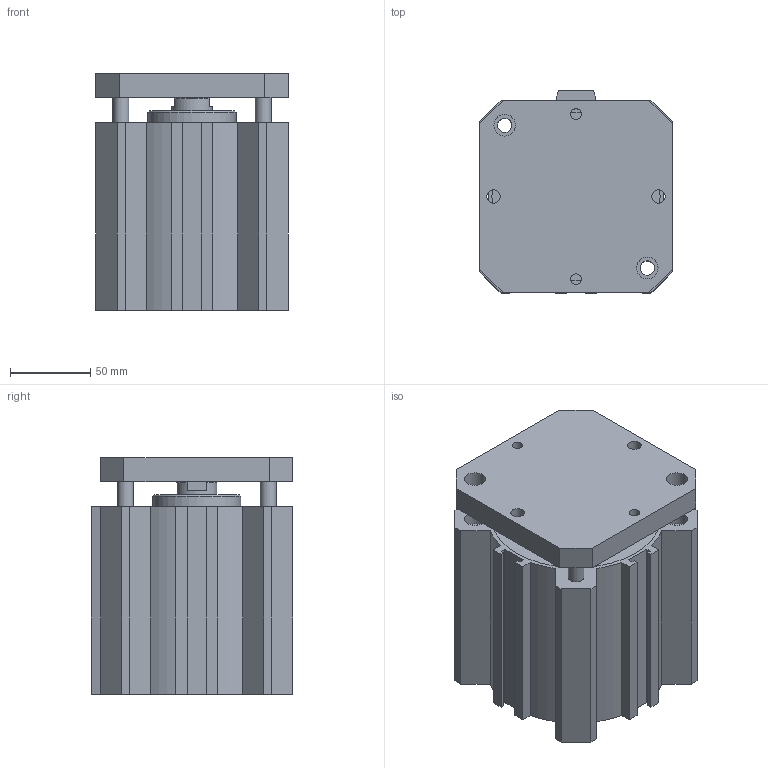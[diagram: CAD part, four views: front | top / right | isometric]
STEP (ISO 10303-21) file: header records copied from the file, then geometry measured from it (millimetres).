
FILE_DESCRIPTION(/* description */ (''),/* implementation_level */ '2;1');
FILE_NAME(/* name */ 'I:\Area Tecnica\Disegni\VARIE-3D\Componenti\1500\Ø100\15##_100_####_#\1501_100_0070_AR.stp',/* time_stamp */ '2016-08-24T15:10:24+02:00',/* author */ ('Maniean1'),/* organization */ (''),/* preprocessor_version */ 'ST-DEVELOPER v15.2',/* originating_system */ 'Autodesk Inventor 2014',/* authorisation */ '');
FILE_SCHEMA (('AUTOMOTIVE_DESIGN { 1 0 10303 214 3 1 1 }'));
Length unit declared in the file: millimetre
Products named in the file (3): C_1501_100_0070_AR; S_1501_100_0070_AR; 1501_100_0070_AR
Bounding box: 120 x 126 x 147.5 mm (x, y, z)
Volume: 1069611.1 mm3; surface area: 231366 mm2
Topology: 2 solids, 2 shells, 139 faces, 342 edges, 229 vertices
Faces by surface type: plane 94, cylinder 40, cone 5
Full cylindrical faces by diameter (mm): 6.647 x2, 8.5 x2, 9 x4, 10 x4, 13.5 x10, 14.95 x2, 25 x2, 55 x2, 100 x2, 105 x2
Entity records: 3978 total; most frequent: CARTESIAN_POINT 674, DIRECTION 672, ORIENTED_EDGE 600, EDGE_CURVE 300, AXIS2_PLACEMENT_3D 232, VERTEX_POINT 222, EDGE_LOOP 216, LINE 208
